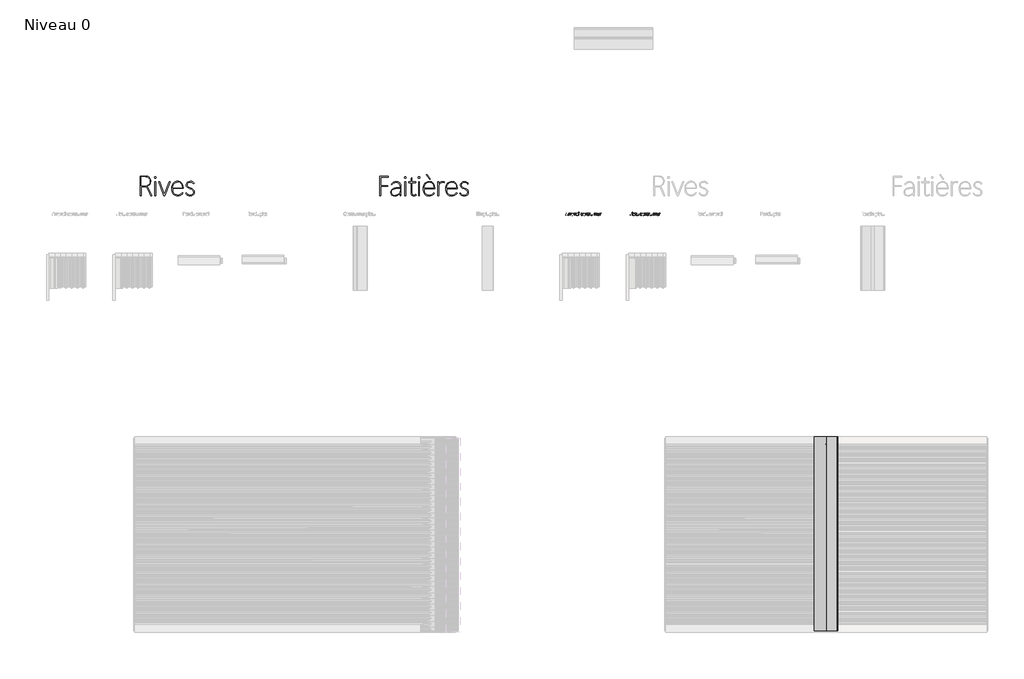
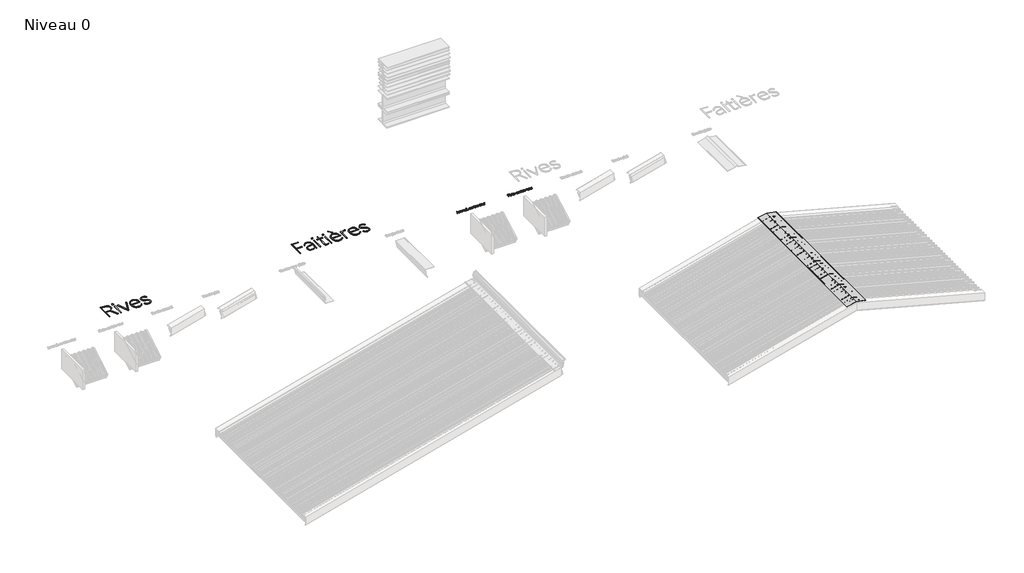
# One storey, part 14 of 26: 5 proxies.
"""IFC4 building model written with IfcOpenShell, lengths in millimetres."""

from ifc_helpers import new_model, si_unit, origin, origin_with_axes, place, context, project, spatial, polyline, outline, extrude, transform, mapped, element, save
from components import generic_models_76f4f1b0

model = new_model("IFC4")

# Units and contexts
model_context = context("Model", 3, world=origin())
ifc_project = project(units=[si_unit("LENGTHUNIT", "METRE", prefix="MILLI")], contexts=[model_context])

# Site, building, storey
site = spatial("IfcSite", under=ifc_project)
building = spatial("IfcBuilding", under=site)
storey = spatial("IfcBuildingStorey", under=building, Name="Niveau 0", Elevation=0.0)

# Proxies
placement = place(None, origin())
generic_models_shape = generic_models_76f4f1b0(model_context)
element("IfcBuildingElementProxy", 1, Name="Faitaire a double plat : Faitaire a double plat", ObjectType="Faitaire a double plat : Faitaire a double plat", at=placement, inside=storey, context=model_context, shape_type="MappedRepresentation", body=[
    mapped(generic_models_shape, transform((3316.3996071, -11691.4337097, 680.0), x_axis=(0.0, -1.0, 0.0), y_axis=(1.0, 0.0, 0.0), z_axis=(0.0, 0.0, 1.0))),
])
element("IfcBuildingElementProxy", 2, Name="0.5mm", ObjectType="0.5mm", at=placement, inside=storey, context=model_context, shape_type="SweptSolid", body=[
    extrude(outline(polyline([(-743.1416896, -8239.2596825), (-724.4557646, -8189.2569805), (-722.4622026, -8189.2569805), (-704.0589469, -8239.2596825), (-706.5285835, -8239.2596825), (-712.4646377, -8223.1177808), (-734.6764895, -8223.1177808), (-740.672053, -8239.2596825), (-743.1416896, -8239.2596825)]), holes=[polyline([(-733.8731138, -8220.9159361), (-713.2977681, -8220.9159361), (-722.120024, -8196.8890501), (-722.8490131, -8194.7987854), (-723.4738609, -8192.8870487), (-724.2846754, -8194.8211014), (-725.0062258, -8196.8295408), (-733.8731138, -8220.9159361)])]), origin_with_axes(), (0.0, 0.0, 1.0), 10.0),
    extrude(outline(polyline([(-680.8354367, -8205.5476555), (-682.5612068, -8204.960001), (-684.286977, -8204.803789), (-691.6289387, -8209.0066344), (-694.5077018, -8221.1242187), (-694.5077018, -8239.2596825), (-696.6351598, -8239.2596825), (-696.6351598, -8203.5540934), (-694.5077018, -8203.5540934), (-694.5077018, -8211.4390777), (-690.4982617, -8205.071581), (-684.1828357, -8202.8251043), (-682.1297643, -8202.9961936), (-680.0023063, -8203.6582347), (-680.8354367, -8205.5476555)])), origin_with_axes(), (0.0, 0.0, 1.0), 10.0),
    extrude(outline(polyline([(-657.9838597, -8205.5476555), (-659.7096298, -8204.960001), (-661.4354, -8204.803789), (-668.7773617, -8209.0066344), (-671.6561248, -8221.1242187), (-671.6561248, -8239.2596825), (-673.7835828, -8239.2596825), (-673.7835828, -8203.5540934), (-671.6561248, -8203.5540934), (-671.6561248, -8211.4390777), (-667.6466847, -8205.071581), (-661.3312587, -8202.8251043), (-659.2781873, -8202.9961936), (-657.1507293, -8203.6582347), (-657.9838597, -8205.5476555)])), origin_with_axes(), (0.0, 0.0, 1.0), 10.0),
    extrude(outline(polyline([(-636.6348929, -8240.0928129), (-648.8566185, -8234.9303798), (-653.5057837, -8221.4812746), (-648.7004065, -8207.9131508), (-636.5009969, -8202.676331), (-624.3610967, -8207.9280281), (-619.7640021, -8221.406888), (-624.420606, -8234.8783092), (-636.6348929, -8240.0928129)]), holes=[polyline([(-636.5605063, -8238.0397415), (-625.9678482, -8233.4054536), (-621.9956014, -8221.3771333), (-625.9529708, -8209.3636903), (-636.5009969, -8204.7442797), (-647.182919, -8209.4455156), (-651.2741844, -8221.5110293), (-647.249867, -8233.4575243), (-636.5605063, -8238.0397415)])]), origin_with_axes(), (0.0, 0.0, 1.0), 10.0),
    extrude(outline(polyline([(-585.4271273, -8239.2596825), (-587.5545853, -8239.2596825), (-587.5545853, -8217.018076), (-590.2771364, -8207.9652214), (-597.8496968, -8204.7442797), (-606.4190382, -8208.19582), (-609.7366825, -8217.018076), (-609.7366825, -8239.2596825), (-611.8938952, -8239.2596825), (-611.8938952, -8203.5540934), (-609.7366825, -8203.5540934), (-609.7366825, -8209.6537982), (-604.8346027, -8204.4764878), (-597.7306782, -8202.676331), (-588.6555076, -8206.4626112), (-585.4271273, -8216.8097934), (-585.4271273, -8239.2596825)])), origin_with_axes(), (0.0, 0.0, 1.0), 10.0),
    extrude(outline(polyline([(-550.0265235, -8231.5532262), (-555.2410272, -8237.8314589), (-563.1557661, -8240.0928129), (-574.1426734, -8235.1237851), (-578.2860095, -8221.9275945), (-573.5624576, -8207.8387641), (-561.8316838, -8202.676331), (-554.8095847, -8204.4021012), (-550.0785941, -8209.3116197), (-549.9744528, -8186.4005333), (-547.8172401, -8186.4005333), (-547.8172401, -8239.2596825), (-549.9744528, -8239.2596825), (-550.0265235, -8231.5532262)]), holes=[polyline([(-576.0544101, -8221.7936985), (-572.4466579, -8233.7699482), (-563.0962568, -8238.0397415), (-553.5524504, -8233.9410374), (-549.9744528, -8223.6087326), (-549.9744528, -8216.1403136), (-553.3590451, -8208.0172921), (-561.8763158, -8204.7442797), (-572.0300927, -8209.3413743), (-576.0544101, -8221.7936985)])]), origin_with_axes(), (0.0, 0.0, 1.0), 10.0),
    extrude(outline(polyline([(-535.7963585, -8194.8359788), (-537.4403033, -8194.211131), (-538.1023444, -8192.5746248), (-537.4403033, -8190.93068), (-535.7963585, -8190.2983935), (-534.1152203, -8190.93068), (-533.5052499, -8192.5746248), (-534.1152203, -8194.211131), (-535.7963585, -8194.8359788)])), origin_with_axes(), (0.0, 0.0, 1.0), 10.0),
    extrude(outline(polyline([(-534.6805588, -8239.2596825), (-536.8526488, -8239.2596825), (-536.8526488, -8203.5540934), (-534.6805588, -8203.5540934), (-534.6805588, -8239.2596825)])), origin_with_axes(), (0.0, 0.0, 1.0), 10.0),
    extrude(outline(polyline([(-478.8608213, -8233.4426469), (-484.1571503, -8238.3521654), (-491.7594653, -8240.0928129), (-503.2968338, -8235.0196438), (-507.8269804, -8221.4812746), (-503.1257445, -8207.7495001), (-491.2387588, -8202.676331), (-484.209221, -8204.3202759), (-478.9352079, -8209.2074784), (-480.6312234, -8210.3827873), (-485.3622139, -8206.02373), (-491.2685135, -8204.6996477), (-501.5561863, -8209.1851624), (-505.5953811, -8221.5110293), (-501.6603276, -8233.5393496), (-491.6850787, -8238.0397415), (-485.27295, -8236.5743246), (-480.5717141, -8232.178074), (-478.8608213, -8233.4426469)])), origin_with_axes(), (0.0, 0.0, 1.0), 10.0),
    extrude(outline(polyline([(-456.6787241, -8240.0928129), (-468.9004497, -8234.9303798), (-473.5496149, -8221.4812746), (-468.7442377, -8207.9131508), (-456.5448281, -8202.676331), (-444.4049278, -8207.9280281), (-439.8078332, -8221.406888), (-444.4644371, -8234.8783092), (-456.6787241, -8240.0928129)]), holes=[polyline([(-456.6043374, -8238.0397415), (-446.0116793, -8233.4054536), (-442.0394326, -8221.3771333), (-445.996802, -8209.3636903), (-456.5448281, -8204.7442797), (-467.2267502, -8209.4455156), (-471.3180156, -8221.5110293), (-467.2936982, -8233.4575243), (-456.6043374, -8238.0397415)])]), origin_with_axes(), (0.0, 0.0, 1.0), 10.0),
    extrude(outline(polyline([(-405.4709584, -8239.2596825), (-407.5984165, -8239.2596825), (-407.5984165, -8217.018076), (-410.3209676, -8207.9652214), (-417.893528, -8204.7442797), (-426.4628693, -8208.19582), (-429.7805137, -8217.018076), (-429.7805137, -8239.2596825), (-431.9377263, -8239.2596825), (-431.9377263, -8203.5540934), (-429.7805137, -8203.5540934), (-429.7805137, -8209.6537982), (-424.8784338, -8204.4764878), (-417.7745093, -8202.676331), (-408.6993388, -8206.4626112), (-405.4709584, -8216.8097934), (-405.4709584, -8239.2596825)])), origin_with_axes(), (0.0, 0.0, 1.0), 10.0),
    extrude(outline(polyline([(-381.1167712, -8237.519035), (-384.0550437, -8239.3861398), (-387.2908627, -8239.9589169), (-392.3268385, -8238.0025482), (-394.0154153, -8232.1483193), (-394.0154153, -8205.5476555), (-400.5614399, -8205.5476555), (-400.5614399, -8203.5540934), (-394.0154153, -8203.5540934), (-394.0154153, -8193.9582164), (-391.8582026, -8193.5862831), (-391.8582026, -8203.5540934), (-382.1284296, -8203.5540934), (-382.1284296, -8205.5476555), (-391.8582026, -8205.5476555), (-391.8582026, -8231.999546), (-390.6680163, -8236.4850607), (-387.1420894, -8237.9653549), (-384.6873301, -8237.496719), (-382.3664669, -8235.9420382), (-381.1167712, -8237.519035)])), origin_with_axes(), (0.0, 0.0, 1.0), 10.0),
    extrude(outline(polyline([(-359.0090607, -8205.5476555), (-360.7348308, -8204.960001), (-362.460601, -8204.803789), (-369.8025627, -8209.0066344), (-372.6813258, -8221.1242187), (-372.6813258, -8239.2596825), (-374.8087838, -8239.2596825), (-374.8087838, -8203.5540934), (-372.6813258, -8203.5540934), (-372.6813258, -8211.4390777), (-368.6718857, -8205.071581), (-362.3564597, -8202.8251043), (-360.3033883, -8202.9961936), (-358.1759303, -8203.6582347), (-359.0090607, -8205.5476555)])), origin_with_axes(), (0.0, 0.0, 1.0), 10.0),
    extrude(outline(polyline([(-325.0738738, -8220.4770549), (-352.3440174, -8220.7374082), (-348.7660198, -8233.7476322), (-338.9097895, -8238.0694962), (-332.1554822, -8236.3957967), (-327.3798597, -8231.3746982), (-325.490439, -8232.3863566), (-330.9652959, -8238.1661988), (-338.9097895, -8240.1374449), (-350.2835074, -8235.3543837), (-354.5309847, -8220.6332669), (-350.1272954, -8207.5932882), (-338.9097895, -8202.676331), (-328.703942, -8207.176723), (-325.0738738, -8220.4770549)]), holes=[polyline([(-327.2757184, -8218.7289688), (-330.5338534, -8208.2776453), (-338.9841762, -8204.7442797), (-348.0816627, -8208.3669093), (-352.2398761, -8218.7289688), (-327.2757184, -8218.7289688)])]), origin_with_axes(), (0.0, 0.0, 1.0), 10.0),
    extrude(outline(polyline([(-252.9039519, -8239.2596825), (-255.0314099, -8239.2596825), (-255.0314099, -8217.018076), (-257.5084851, -8207.7420615), (-264.3743724, -8204.7442797), (-272.0585127, -8208.262768), (-275.1455584, -8217.2263586), (-275.1455584, -8239.2596825), (-277.3027711, -8239.2596825), (-277.3027711, -8216.839548), (-279.586441, -8207.9131508), (-286.3779416, -8204.7442797), (-294.3447512, -8208.1214334), (-297.4317969, -8216.973444), (-297.4317969, -8239.2596825), (-299.5890096, -8239.2596825), (-299.5890096, -8203.5540934), (-297.4317969, -8203.5540934), (-297.4317969, -8209.371129), (-292.7008063, -8204.3723465), (-286.1994137, -8202.676331), (-279.3484038, -8205.0120716), (-275.8745475, -8211.2307951), (-271.2774529, -8204.9302463), (-264.3446177, -8202.676331), (-255.849663, -8206.2915219), (-252.9039519, -8216.839548), (-252.9039519, -8239.2596825)])), origin_with_axes(), (0.0, 0.0, 1.0), 10.0),
    extrude(outline(polyline([(-216.7222883, -8239.2299278), (-218.8497463, -8239.2299278), (-218.8497463, -8233.1153457), (-223.8038968, -8238.3000948), (-230.7069773, -8240.0928129), (-239.8416572, -8236.366042), (-243.1890562, -8226.0486145), (-243.1890562, -8203.5243388), (-241.0318435, -8203.5243388), (-241.0318435, -8225.8403319), (-238.227467, -8234.7816065), (-230.5284494, -8238.0397415), (-222.1673906, -8234.5733239), (-218.8497463, -8225.7659453), (-218.8497463, -8203.5243388), (-216.7222883, -8203.5243388), (-216.7222883, -8239.2299278)])), origin_with_axes(), (0.0, 0.0, 1.0), 10.0),
    extrude(outline(polyline([(-190.4786803, -8205.5476555), (-192.2044505, -8204.960001), (-193.9302206, -8204.803789), (-201.2721824, -8209.0066344), (-204.1509455, -8221.1242187), (-204.1509455, -8239.2596825), (-206.2784035, -8239.2596825), (-206.2784035, -8203.5540934), (-204.1509455, -8203.5540934), (-204.1509455, -8211.4390777), (-200.1415054, -8205.071581), (-193.8260793, -8202.8251043), (-191.7730079, -8202.9961936), (-189.6455499, -8203.6582347), (-190.4786803, -8205.5476555)])), origin_with_axes(), (0.0, 0.0, 1.0), 10.0),
])
element("IfcBuildingElementProxy", 3, Name="0.5mm", ObjectType="0.5mm", at=placement, inside=storey, context=model_context, shape_type="SweptSolid", body=[
    extrude(outline(polyline([(263.5233537, -8218.967006), (263.5233537, -8239.2596825), (261.2173677, -8239.2596825), (261.2173677, -8189.2569805), (271.8100258, -8189.2569805), (283.5482382, -8193.0730153), (287.9221729, -8203.6879894), (283.5631156, -8214.7269673), (271.1554234, -8218.967006), (263.5233537, -8218.967006)]), holes=[polyline([(263.5233537, -8191.4141931), (263.5233537, -8216.7651614), (271.185178, -8216.7651614), (281.7480815, -8213.3880077), (285.5864323, -8203.8367627), (281.8894161, -8194.7095215), (271.5719886, -8191.4141931), (263.5233537, -8191.4141931)])]), origin_with_axes(), (0.0, 0.0, 1.0), 10.0),
    extrude(outline(polyline([(297.6519459, -8239.2596825), (297.6519459, -8186.4005333), (299.8091586, -8186.4005333), (299.8091586, -8239.2596825), (297.6519459, -8239.2596825)])), origin_with_axes(), (0.0, 0.0, 1.0), 10.0),
    extrude(outline(polyline([(334.8006359, -8239.2596825), (332.6285459, -8239.2596825), (332.6285459, -8232.3863566), (327.3842875, -8237.9356002), (319.8340431, -8240.0928129), (311.8002856, -8237.3033137), (308.9587158, -8230.1547573), (312.0606388, -8222.8871822), (321.7978505, -8219.145534), (332.6731778, -8217.6131691), (332.6731778, -8215.5154658), (329.9357493, -8207.4817082), (322.5268396, -8204.7442797), (316.3006775, -8206.4179792), (311.8151629, -8211.364691), (309.8364782, -8210.2488914), (315.2518258, -8204.6178224), (322.5268396, -8202.676331), (331.4681142, -8206.0088527), (334.8006359, -8215.5452204), (334.8006359, -8239.2596825)]), holes=[polyline([(332.6285459, -8225.3493801), (332.6285459, -8219.6662405), (322.0656424, -8221.094464), (313.8236023, -8224.0699298), (311.1903151, -8230.095248), (313.5781264, -8235.9494768), (320.0125711, -8238.1141282), (328.8868977, -8234.4319893), (332.6285459, -8225.3493801)])]), origin_with_axes(), (0.0, 0.0, 1.0), 10.0),
    extrude(outline(polyline([(359.8986895, -8237.519035), (356.9604171, -8239.3861398), (353.7245981, -8239.9589169), (348.6886223, -8238.0025482), (347.0000454, -8232.1483193), (347.0000454, -8205.5476555), (340.4540208, -8205.5476555), (340.4540208, -8203.5540934), (347.0000454, -8203.5540934), (347.0000454, -8193.9582164), (349.1572581, -8193.5862831), (349.1572581, -8203.5540934), (358.8870311, -8203.5540934), (358.8870311, -8205.5476555), (349.1572581, -8205.5476555), (349.1572581, -8231.999546), (350.3474444, -8236.4850607), (353.8733713, -8237.9653549), (356.3281306, -8237.496719), (358.6489939, -8235.9420382), (359.8986895, -8237.519035)])), origin_with_axes(), (0.0, 0.0, 1.0), 10.0),
    extrude(outline(polyline([(393.09001, -8220.4770549), (365.8198663, -8220.7374082), (369.3978639, -8233.7476322), (379.2540942, -8238.0694962), (386.0084015, -8236.3957967), (390.784024, -8231.3746982), (392.6734448, -8232.3863566), (387.1985878, -8238.1661988), (379.2540942, -8240.1374449), (367.8803764, -8235.3543837), (363.632899, -8220.6332669), (368.0365883, -8207.5932882), (379.2540942, -8202.676331), (389.4599418, -8207.176723), (393.09001, -8220.4770549)]), holes=[polyline([(390.8881653, -8218.7289688), (387.6300303, -8208.2776453), (379.1797076, -8204.7442797), (370.082221, -8208.3669093), (365.9240076, -8218.7289688), (390.8881653, -8218.7289688)])]), origin_with_axes(), (0.0, 0.0, 1.0), 10.0),
    extrude(outline(polyline([(444.9672554, -8233.4426469), (439.6709264, -8238.3521654), (432.0686114, -8240.0928129), (420.5312429, -8235.0196438), (416.0010963, -8221.4812746), (420.7023322, -8207.7495001), (432.5893179, -8202.676331), (439.6188557, -8204.3202759), (444.8928688, -8209.2074784), (443.1968533, -8210.3827873), (438.4658627, -8206.02373), (432.5595632, -8204.6996477), (422.2718904, -8209.1851624), (418.2326956, -8221.5110293), (422.1677491, -8233.5393496), (432.142998, -8238.0397415), (438.5551267, -8236.5743246), (443.2563626, -8232.178074), (444.9672554, -8233.4426469)])), origin_with_axes(), (0.0, 0.0, 1.0), 10.0),
    extrude(outline(polyline([(467.1493526, -8240.0928129), (454.927627, -8234.9303798), (450.2784618, -8221.4812746), (455.083839, -8207.9131508), (467.2832486, -8202.676331), (479.4231489, -8207.9280281), (484.0202434, -8221.406888), (479.3636395, -8234.8783092), (467.1493526, -8240.0928129)]), holes=[polyline([(467.2237393, -8238.0397415), (477.8163973, -8233.4054536), (481.7886441, -8221.3771333), (477.8312747, -8209.3636903), (467.2832486, -8204.7442797), (456.6013265, -8209.4455156), (452.5100611, -8221.5110293), (456.5343785, -8233.4575243), (467.2237393, -8238.0397415)])]), origin_with_axes(), (0.0, 0.0, 1.0), 10.0),
    extrude(outline(polyline([(518.3571182, -8239.2596825), (516.2296602, -8239.2596825), (516.2296602, -8217.018076), (513.5071091, -8207.9652214), (505.9345487, -8204.7442797), (497.3652074, -8208.19582), (494.047563, -8217.018076), (494.047563, -8239.2596825), (491.8903504, -8239.2596825), (491.8903504, -8203.5540934), (494.047563, -8203.5540934), (494.047563, -8209.6537982), (498.9496429, -8204.4764878), (506.0535674, -8202.676331), (515.1287379, -8206.4626112), (518.3571182, -8216.8097934), (518.3571182, -8239.2596825)])), origin_with_axes(), (0.0, 0.0, 1.0), 10.0),
    extrude(outline(polyline([(542.7113054, -8237.519035), (539.773033, -8239.3861398), (536.537214, -8239.9589169), (531.5012382, -8238.0025482), (529.8126614, -8232.1483193), (529.8126614, -8205.5476555), (523.2666367, -8205.5476555), (523.2666367, -8203.5540934), (529.8126614, -8203.5540934), (529.8126614, -8193.9582164), (531.9698741, -8193.5862831), (531.9698741, -8203.5540934), (541.6996471, -8203.5540934), (541.6996471, -8205.5476555), (531.9698741, -8205.5476555), (531.9698741, -8231.999546), (533.1600604, -8236.4850607), (536.6859873, -8237.9653549), (539.1407465, -8237.496719), (541.4616098, -8235.9420382), (542.7113054, -8237.519035)])), origin_with_axes(), (0.0, 0.0, 1.0), 10.0),
    extrude(outline(polyline([(564.819016, -8205.5476555), (563.0932459, -8204.960001), (561.3674757, -8204.803789), (554.025514, -8209.0066344), (551.1467509, -8221.1242187), (551.1467509, -8239.2596825), (549.0192928, -8239.2596825), (549.0192928, -8203.5540934), (551.1467509, -8203.5540934), (551.1467509, -8211.4390777), (555.156191, -8205.071581), (561.471617, -8202.8251043), (563.5246884, -8202.9961936), (565.6521464, -8203.6582347), (564.819016, -8205.5476555)])), origin_with_axes(), (0.0, 0.0, 1.0), 10.0),
    extrude(outline(polyline([(598.7542029, -8220.4770549), (571.4840593, -8220.7374082), (575.0620569, -8233.7476322), (584.9182872, -8238.0694962), (591.6725944, -8236.3957967), (596.448217, -8231.3746982), (598.3376377, -8232.3863566), (592.8627807, -8238.1661988), (584.9182872, -8240.1374449), (573.5445693, -8235.3543837), (569.297092, -8220.6332669), (573.7007813, -8207.5932882), (584.9182872, -8202.676331), (595.1241347, -8207.176723), (598.7542029, -8220.4770549)]), holes=[polyline([(596.5523583, -8218.7289688), (593.2942233, -8208.2776453), (584.8439005, -8204.7442797), (575.746414, -8208.3669093), (571.5882006, -8218.7289688), (596.5523583, -8218.7289688)])]), origin_with_axes(), (0.0, 0.0, 1.0), 10.0),
    extrude(outline(polyline([(670.9241248, -8239.2596825), (668.7966668, -8239.2596825), (668.7966668, -8217.018076), (666.3195916, -8207.7420615), (659.4537043, -8204.7442797), (651.769564, -8208.262768), (648.6825183, -8217.2263586), (648.6825183, -8239.2596825), (646.5253056, -8239.2596825), (646.5253056, -8216.839548), (644.2416357, -8207.9131508), (637.4501351, -8204.7442797), (629.4833255, -8208.1214334), (626.3962798, -8216.973444), (626.3962798, -8239.2596825), (624.2390671, -8239.2596825), (624.2390671, -8203.5540934), (626.3962798, -8203.5540934), (626.3962798, -8209.371129), (631.1272703, -8204.3723465), (637.628663, -8202.676331), (644.4796729, -8205.0120716), (647.9535292, -8211.2307951), (652.5506238, -8204.9302463), (659.483459, -8202.676331), (667.9784137, -8206.2915219), (670.9241248, -8216.839548), (670.9241248, -8239.2596825)])), origin_with_axes(), (0.0, 0.0, 1.0), 10.0),
    extrude(outline(polyline([(707.1057884, -8239.2299278), (704.9783304, -8239.2299278), (704.9783304, -8233.1153457), (700.0241799, -8238.3000948), (693.1210993, -8240.0928129), (683.9864195, -8236.366042), (680.6390205, -8226.0486145), (680.6390205, -8203.5243388), (682.7962332, -8203.5243388), (682.7962332, -8225.8403319), (685.6006096, -8234.7816065), (693.2996273, -8238.0397415), (701.6606861, -8234.5733239), (704.9783304, -8225.7659453), (704.9783304, -8203.5243388), (707.1057884, -8203.5243388), (707.1057884, -8239.2299278)])), origin_with_axes(), (0.0, 0.0, 1.0), 10.0),
    extrude(outline(polyline([(733.3493963, -8205.5476555), (731.6236262, -8204.960001), (729.8978561, -8204.803789), (722.5558943, -8209.0066344), (719.6771312, -8221.1242187), (719.6771312, -8239.2596825), (717.5496732, -8239.2596825), (717.5496732, -8203.5540934), (719.6771312, -8203.5540934), (719.6771312, -8211.4390777), (723.6865713, -8205.071581), (730.0019974, -8202.8251043), (732.0550687, -8202.9961936), (734.1825268, -8203.6582347), (733.3493963, -8205.5476555)])), origin_with_axes(), (0.0, 0.0, 1.0), 10.0),
])
element("IfcBuildingElementProxy", 4, Name="3 mm", ObjectType="3 mm", at=placement, inside=storey, context=model_context, shape_type="SweptSolid", body=[
    extrude(outline(polyline([(-3505.4207433, -7642.2780058), (-3627.3124832, -7642.2780058), (-3627.3124832, -7774.3574429), (-3513.8954649, -7774.3574429), (-3513.8954649, -7787.7006215), (-3627.3124832, -7787.7006215), (-3627.3124832, -7932.2216711), (-3641.2867581, -7932.2216711), (-3641.2867581, -7629.205297), (-3505.4207433, -7629.205297), (-3505.4207433, -7642.2780058)])), origin_with_axes(), (0.0, 0.0, 1.0), 10.0),
    extrude(outline(polyline([(-3310.7726172, -7932.2216711), (-3323.9354826, -7932.2216711), (-3323.9354826, -7890.5693162), (-3337.6280181, -7909.2542741), (-3355.7156885, -7924.1977326), (-3377.4547016, -7934.0022642), (-3401.4701693, -7937.2704414), (-3429.3736408, -7933.0443502), (-3450.1547399, -7920.3660766), (-3463.0696747, -7901.0838311), (-3467.3746529, -7877.0458243), (-3462.6752395, -7852.5119562), (-3448.5769992, -7833.0043192), (-3424.4262967, -7818.8384615), (-3389.5694964, -7810.3299312), (-3323.6650128, -7801.0438001), (-3323.6650128, -7788.3317178), (-3327.812217, -7760.1126981), (-3340.2538295, -7739.6471471), (-3359.772736, -7727.2055346), (-3385.1518224, -7723.0583304), (-3405.2680166, -7725.5939852), (-3422.8823647, -7733.2009493), (-3437.8596319, -7745.7665272), (-3450.0645833, -7763.1780229), (-3462.0554128, -7756.416277), (-3447.3148066, -7736.7057876), (-3429.2384059, -7722.2919992), (-3408.344611, -7713.4679208), (-3385.1518224, -7710.5265613), (-3354.61127, -7715.5753316), (-3330.9676984, -7730.7216425), (-3322.1323504, -7741.9066972), (-3315.8213875, -7755.2667802), (-3310.7726172, -7788.512031), (-3310.7726172, -7932.2216711)]), holes=[polyline([(-3323.9354826, -7847.9252386), (-3323.9354826, -7813.4854126), (-3387.9466774, -7822.1404474), (-3417.4278897, -7828.9472717), (-3437.8934407, -7840.1717699), (-3449.8617309, -7856.0167945), (-3453.851161, -7876.6851979), (-3450.233627, -7896.7337746), (-3439.3810248, -7912.1618249), (-3422.3977729, -7922.0001652), (-3400.3882899, -7925.279612), (-3371.3916695, -7919.7011716), (-3346.6098706, -7902.9658504), (-3329.6040796, -7878.0488167), (-3323.9354826, -7847.9252386)])]), origin_with_axes(), (0.0, 0.0, 1.0), 10.0),
    extrude(outline(polyline([(-3242.0732786, -7663.0140266), (-3252.0355843, -7659.2274489), (-3256.0475535, -7649.3102215), (-3252.0355843, -7639.3479159), (-3242.0732786, -7635.5162598), (-3231.8855814, -7639.3479159), (-3228.1891603, -7649.3102215), (-3231.8855814, -7659.2274489), (-3242.0732786, -7663.0140266)])), origin_with_axes(), (0.0, 0.0, 1.0), 10.0),
    extrude(outline(polyline([(-3235.3115327, -7932.2216711), (-3248.4743981, -7932.2216711), (-3248.4743981, -7715.8458014), (-3235.3115327, -7715.8458014), (-3235.3115327, -7932.2216711)])), origin_with_axes(), (0.0, 0.0, 1.0), 10.0),
    extrude(outline(polyline([(-3072.1280643, -7921.6733475), (-3089.9339952, -7932.9880023), (-3109.5430584, -7936.4590319), (-3127.3151806, -7933.4951333), (-3140.0610717, -7924.6034374), (-3147.7356533, -7909.8064834), (-3150.2938472, -7889.1268104), (-3150.2938472, -7727.9267875), (-3189.9627567, -7727.9267875), (-3189.9627567, -7715.8458014), (-3150.2938472, -7715.8458014), (-3150.2938472, -7657.6947865), (-3137.2211384, -7655.4408712), (-3137.2211384, -7715.8458014), (-3078.2587139, -7715.8458014), (-3078.2587139, -7727.9267875), (-3137.2211384, -7727.9267875), (-3137.2211384, -7888.2252443), (-3135.4180062, -7904.1266168), (-3130.0086094, -7915.4074629), (-3121.0605657, -7922.1354001), (-3108.6414923, -7924.3780458), (-3093.7656513, -7921.5381126), (-3079.7012197, -7912.1167466), (-3072.1280643, -7921.6733475)])), origin_with_axes(), (0.0, 0.0, 1.0), 10.0),
    extrude(outline(polyline([(-3028.5824205, -7663.0140266), (-3038.5447262, -7659.2274489), (-3042.5566955, -7649.3102215), (-3038.5447262, -7639.3479159), (-3028.5824205, -7635.5162598), (-3018.3947233, -7639.3479159), (-3014.6983022, -7649.3102215), (-3018.3947233, -7659.2274489), (-3028.5824205, -7663.0140266)])), origin_with_axes(), (0.0, 0.0, 1.0), 10.0),
    extrude(outline(polyline([(-3021.8206746, -7932.2216711), (-3034.98354, -7932.2216711), (-3034.98354, -7715.8458014), (-3021.8206746, -7715.8458014), (-3021.8206746, -7932.2216711)])), origin_with_axes(), (0.0, 0.0, 1.0), 10.0),
    extrude(outline(polyline([(-2784.4383143, -7819.9766887), (-2949.6953847, -7819.9766887), (-2948.5768793, -7844.7162266), (-2944.5902665, -7866.1030655), (-2937.7355466, -7884.1372054), (-2928.0127194, -7898.8186462), (-2915.9120116, -7910.2093707), (-2901.9236497, -7918.3713615), (-2886.0476338, -7923.3046187), (-2868.2839638, -7925.0091421), (-2846.5562202, -7922.4734874), (-2827.3528617, -7914.8665232), (-2811.1472107, -7902.1882496), (-2798.4125892, -7884.4386666), (-2786.9626994, -7890.5693162), (-2801.477914, -7910.8658236), (-2820.1403328, -7925.5951601), (-2842.5442509, -7934.5544735), (-2868.2839638, -7937.5409112), (-2888.7861409, -7935.6279006), (-2907.107655, -7930.1593386), (-2923.248506, -7921.1352252), (-2937.2086939, -7908.5555604), (-2948.4698183, -7892.211857), (-2956.5134785, -7871.8956279), (-2961.3396747, -7847.606873), (-2962.9484067, -7819.3455924), (-2961.2805094, -7795.9471341), (-2956.2768174, -7774.9772696), (-2947.9373308, -7756.4359988), (-2936.2620495, -7740.3233217), (-2922.0060352, -7727.287239), (-2905.9243494, -7717.9757514), (-2888.0169923, -7712.3888588), (-2868.2839638, -7710.5265613), (-2849.4750405, -7712.2310848), (-2832.8974934, -7717.3446551), (-2818.5513225, -7725.8672724), (-2806.4365277, -7737.7989366), (-2796.8123093, -7752.9649692), (-2789.9378676, -7771.1906919), (-2784.4383143, -7816.8212073), (-2784.4383143, -7819.9766887)]), holes=[polyline([(-2797.7814929, -7807.8055461), (-2803.1232722, -7771.0103786), (-2809.1919391, -7756.4585379), (-2817.525791, -7744.4705259), (-2839.7944743, -7728.4113793), (-2868.7347468, -7723.0583304), (-2899.1964122, -7728.5466142), (-2923.8655153, -7745.0114655), (-2933.6052468, -7757.1685212), (-2941.0516195, -7771.6865532), (-2949.0642884, -7807.8055461), (-2797.7814929, -7807.8055461)])]), origin_with_axes(), (0.0, 0.0, 1.0), 10.0),
    extrude(outline(polyline([(-2849.3510752, -7674.8245428), (-2862.874567, -7674.8245428), (-2913.9933662, -7607.2070836), (-2898.8470554, -7607.2070836), (-2849.3510752, -7674.8245428)])), origin_with_axes(), (0.0, 0.0, 1.0), 10.0),
    extrude(outline(polyline([(-2638.1141324, -7727.9267875), (-2648.5722994, -7724.3656013), (-2659.0304665, -7723.4189569), (-2671.9538534, -7725.0107846), (-2683.6770304, -7729.7862676), (-2703.5227547, -7748.8881999), (-2716.606733, -7779.9809616), (-2720.9680592, -7822.3207606), (-2720.9680592, -7932.2216711), (-2733.8604547, -7932.2216711), (-2733.8604547, -7715.8458014), (-2720.9680592, -7715.8458014), (-2720.9680592, -7763.628806), (-2710.7240141, -7741.4953577), (-2696.6708521, -7725.0417759), (-2678.9663474, -7714.8315396), (-2658.3993702, -7711.4281274), (-2645.9577577, -7712.4649285), (-2633.0653621, -7716.4768977), (-2638.1141324, -7727.9267875)])), origin_with_axes(), (0.0, 0.0, 1.0), 10.0),
    extrude(outline(polyline([(-2432.4668996, -7819.9766887), (-2597.7239701, -7819.9766887), (-2596.6054646, -7844.7162266), (-2592.6188519, -7866.1030655), (-2585.764132, -7884.1372054), (-2576.0413048, -7898.8186462), (-2563.940597, -7910.2093707), (-2549.9522351, -7918.3713615), (-2534.0762191, -7923.3046187), (-2516.3125491, -7925.0091421), (-2494.5848055, -7922.4734874), (-2475.3814471, -7914.8665232), (-2459.175796, -7902.1882496), (-2446.4411745, -7884.4386666), (-2434.9912848, -7890.5693162), (-2449.5064993, -7910.8658236), (-2468.1689181, -7925.5951601), (-2490.5728363, -7934.5544735), (-2516.3125491, -7937.5409112), (-2536.8147262, -7935.6279006), (-2555.1362403, -7930.1593386), (-2571.2770913, -7921.1352252), (-2585.2372793, -7908.5555604), (-2596.4984036, -7892.211857), (-2604.5420639, -7871.8956279), (-2609.36826, -7847.606873), (-2610.9769921, -7819.3455924), (-2609.3090948, -7795.9471341), (-2604.3054028, -7774.9772696), (-2595.9659161, -7756.4359988), (-2584.2906348, -7740.3233217), (-2570.0346205, -7727.287239), (-2553.9529348, -7717.9757514), (-2536.0455776, -7712.3888588), (-2516.3125491, -7710.5265613), (-2497.5036258, -7712.2310848), (-2480.9260788, -7717.3446551), (-2466.5799078, -7725.8672724), (-2454.465113, -7737.7989366), (-2444.8408947, -7752.9649692), (-2437.966453, -7771.1906919), (-2432.4668996, -7816.8212073), (-2432.4668996, -7819.9766887)]), holes=[polyline([(-2445.8100782, -7807.8055461), (-2451.1518575, -7771.0103786), (-2457.2205245, -7756.4585379), (-2465.5543763, -7744.4705259), (-2487.8230596, -7728.4113793), (-2516.7633322, -7723.0583304), (-2547.2249976, -7728.5466142), (-2571.8941006, -7745.0114655), (-2581.6338322, -7757.1685212), (-2589.0802049, -7771.6865532), (-2597.0928738, -7807.8055461), (-2445.8100782, -7807.8055461)])]), origin_with_axes(), (0.0, 0.0, 1.0), 10.0),
    extrude(outline(polyline([(-2393.06846, -7895.25746), (-2380.8071607, -7889.3071236), (-2371.2392902, -7904.7915218), (-2358.0426161, -7916.0836375), (-2341.3974515, -7922.9806183), (-2321.4841098, -7925.279612), (-2301.7623508, -7922.0565131), (-2285.3313082, -7912.3872164), (-2274.2420449, -7897.1732881), (-2270.5456238, -7877.3162942), (-2273.4531746, -7860.2766945), (-2282.1758268, -7846.8433592), (-2298.7646435, -7835.3709303), (-2325.2706875, -7824.2140495), (-2353.2643156, -7812.2457592), (-2370.8899334, -7799.6012943), (-2380.2211427, -7784.9057665), (-2383.3315459, -7766.7842874), (-2378.7448282, -7743.6365772), (-2364.9846753, -7725.7630288), (-2344.3951589, -7714.3356782), (-2319.3203511, -7710.5265613), (-2301.0410979, -7712.6227026), (-2284.2494289, -7718.9111263), (-2269.7792926, -7729.0988235), (-2258.4646378, -7742.8927852), (-2269.7342143, -7749.203748), (-2279.1330411, -7737.7087799), (-2291.2816447, -7729.3692933), (-2305.165763, -7724.2979839), (-2319.7711342, -7722.6075474), (-2339.9436762, -7725.5376373), (-2356.1042489, -7734.327907), (-2366.72019, -7747.9190163), (-2370.2588371, -7765.251625), (-2367.8020694, -7779.6654134), (-2360.4317663, -7791.1716511), (-2345.510847, -7801.3480787), (-2320.4022304, -7811.772437), (-2290.5603918, -7824.3718236), (-2271.1767201, -7838.0080112), (-2260.560779, -7854.6419062), (-2257.022132, -7876.2344148), (-2261.6990062, -7901.6698491), (-2275.729629, -7920.9971729), (-2296.5219977, -7933.2021243), (-2321.4841098, -7937.2704414), (-2345.4995774, -7934.4192385), (-2365.6157715, -7925.8656299), (-2381.5622224, -7912.5111817), (-2393.06846, -7895.25746)])), origin_with_axes(), (0.0, 0.0, 1.0), 10.0),
])
element("IfcBuildingElementProxy", 5, Name="3 mm", ObjectType="3 mm", at=placement, inside=storey, context=model_context, shape_type="SweptSolid", body=[
    extrude(outline(polyline([(-7195.5524666, -7929.2596825), (-7210.9692473, -7929.2596825), (-7250.7283134, -7838.6522871), (-7263.1361172, -7815.7186988), (-7276.1975564, -7801.0119014), (-7291.7833807, -7793.0668499), (-7311.76434, -7790.4184994), (-7356.1213932, -7790.4184994), (-7356.1213932, -7929.2596825), (-7370.0956682, -7929.2596825), (-7370.0956682, -7626.2433083), (-7292.5609815, -7626.2433083), (-7257.659103, -7631.573818), (-7243.0396448, -7638.2369552), (-7230.3078407, -7647.5653472), (-7219.9933608, -7659.1701936), (-7212.6258751, -7672.6626941), (-7208.2053837, -7688.0428487), (-7206.7318866, -7705.3106574), (-7211.9158918, -7734.5439389), (-7227.4679074, -7758.9538417), (-7250.9311658, -7776.7597727), (-7279.8488992, -7786.1811387), (-7267.2157039, -7792.2103621), (-7256.7237281, -7801.7331543), (-7238.2867009, -7833.3330469), (-7195.5524666, -7929.2596825)]), holes=[polyline([(-7356.1213932, -7639.1357039), (-7356.1213932, -7777.5261039), (-7301.8471126, -7777.5261039), (-7268.9061404, -7772.4886032), (-7243.1100797, -7757.376101), (-7226.4423759, -7734.487591), (-7220.8864747, -7706.1220669), (-7225.7774709, -7678.308752), (-7240.4504596, -7657.0768698), (-7263.620709, -7643.6209954), (-7294.0034873, -7639.1357039), (-7356.1213932, -7639.1357039)])]), origin_with_axes(), (0.0, 0.0, 1.0), 10.0),
    extrude(outline(polyline([(-7138.2128612, -7660.052038), (-7148.1751668, -7656.2654602), (-7152.1871361, -7646.3482329), (-7148.1751668, -7636.3859272), (-7138.2128612, -7632.5542712), (-7128.025164, -7636.3859272), (-7124.3287429, -7646.3482329), (-7128.025164, -7656.2654602), (-7138.2128612, -7660.052038)])), origin_with_axes(), (0.0, 0.0, 1.0), 10.0),
    extrude(outline(polyline([(-7131.4511152, -7929.2596825), (-7144.6139806, -7929.2596825), (-7144.6139806, -7712.8838128), (-7131.4511152, -7712.8838128), (-7131.4511152, -7929.2596825)])), origin_with_axes(), (0.0, 0.0, 1.0), 10.0),
    extrude(outline(polyline([(-6905.6989579, -7712.8838128), (-6991.257583, -7929.2596825), (-7001.8059067, -7929.2596825), (-7086.1023392, -7712.8838128), (-7071.5871246, -7712.8838128), (-7002.437003, -7891.6643751), (-6999.1913649, -7899.9587835), (-6996.5768232, -7907.0811558), (-6992.8353237, -7899.6883136), (-6989.8150772, -7892.0250016), (-6919.6732328, -7712.8838128), (-6905.6989579, -7712.8838128)])), origin_with_axes(), (0.0, 0.0, 1.0), 10.0),
    extrude(outline(polyline([(-6703.6579896, -7817.0147001), (-6868.91506, -7817.0147001), (-6867.7965546, -7841.754238), (-6863.8099419, -7863.1410769), (-6856.9552219, -7881.1752168), (-6847.2323948, -7895.8566576), (-6835.131687, -7907.2473821), (-6821.1433251, -7915.4093729), (-6805.2673091, -7920.34263), (-6787.5036391, -7922.0471535), (-6765.7758955, -7919.5114988), (-6746.5725371, -7911.9045346), (-6730.366886, -7899.226261), (-6717.6322645, -7881.4766779), (-6706.1823747, -7887.6073276), (-6720.6975893, -7907.9038349), (-6739.3600081, -7922.6331715), (-6761.7639263, -7931.5924848), (-6787.5036391, -7934.5789226), (-6808.0058162, -7932.665912), (-6826.3273303, -7927.19735), (-6842.4681813, -7918.1732366), (-6856.4283692, -7905.5935717), (-6867.6894936, -7889.2498683), (-6875.7331539, -7868.9336392), (-6880.55935, -7844.6448844), (-6882.1680821, -7816.3836038), (-6880.5001847, -7792.9851455), (-6875.4964927, -7772.0152809), (-6867.1570061, -7753.4740101), (-6855.4817248, -7737.3613331), (-6841.2257105, -7724.3252504), (-6825.1440247, -7715.0137628), (-6807.2366676, -7709.4268702), (-6787.5036391, -7707.5645727), (-6768.6947158, -7709.2690961), (-6752.1171687, -7714.3826665), (-6737.7709978, -7722.9052838), (-6725.656203, -7734.8369479), (-6716.0319846, -7750.0029806), (-6709.1575429, -7768.2287032), (-6703.6579896, -7813.8592187), (-6703.6579896, -7817.0147001)]), holes=[polyline([(-6717.0011682, -7804.8435574), (-6722.3429475, -7768.04839), (-6728.4116145, -7753.4965493), (-6736.7454663, -7741.5085372), (-6759.0141496, -7725.4493907), (-6787.9544221, -7720.0963418), (-6818.4160875, -7725.5846256), (-6843.0851906, -7742.0494769), (-6852.8249221, -7754.2065326), (-6860.2712948, -7768.7245646), (-6868.2839638, -7804.8435574), (-6717.0011682, -7804.8435574)])]), origin_with_axes(), (0.0, 0.0, 1.0), 10.0),
    extrude(outline(polyline([(-6664.25955, -7892.2954714), (-6651.9982507, -7886.345135), (-6642.4303802, -7901.8295332), (-6629.2337061, -7913.1216489), (-6612.5885415, -7920.0186297), (-6592.6751998, -7922.3176233), (-6572.9534408, -7919.0945244), (-6556.5223982, -7909.4252278), (-6545.4331349, -7894.2112994), (-6541.7367138, -7874.3543056), (-6544.6442645, -7857.3147058), (-6553.3669168, -7843.8813706), (-6569.9557335, -7832.4089416), (-6596.4617775, -7821.2520609), (-6624.4554056, -7809.2837706), (-6642.0810233, -7796.6393057), (-6651.4122327, -7781.9437779), (-6654.5226359, -7763.8222988), (-6649.9359182, -7740.6745886), (-6636.1757652, -7722.8010402), (-6615.5862489, -7711.3736896), (-6590.5114411, -7707.5645727), (-6572.2321879, -7709.6607139), (-6555.4405189, -7715.9491376), (-6540.9703826, -7726.1368348), (-6529.6557277, -7739.9307965), (-6540.9253043, -7746.2417594), (-6550.3241311, -7734.7467913), (-6562.4727346, -7726.4073047), (-6576.3568529, -7721.3359952), (-6590.9622241, -7719.6455587), (-6611.1347662, -7722.5756486), (-6627.2953389, -7731.3659183), (-6637.91128, -7744.9570277), (-6641.4499271, -7762.2896364), (-6638.9931594, -7776.7034248), (-6631.6228563, -7788.2096624), (-6616.701937, -7798.3860901), (-6591.5933204, -7808.8104484), (-6561.7514817, -7821.4098349), (-6542.3678101, -7835.0460226), (-6531.751869, -7851.6799175), (-6528.2132219, -7873.2724262), (-6532.8900962, -7898.7078605), (-6546.920719, -7918.0351842), (-6567.7130877, -7930.2401356), (-6592.6751998, -7934.3084528), (-6616.6906674, -7931.4572499), (-6636.8068615, -7922.9036413), (-6652.7533123, -7909.5491931), (-6664.25955, -7892.2954714)])), origin_with_axes(), (0.0, 0.0, 1.0), 10.0),
])

save(model, "model.ifc")
